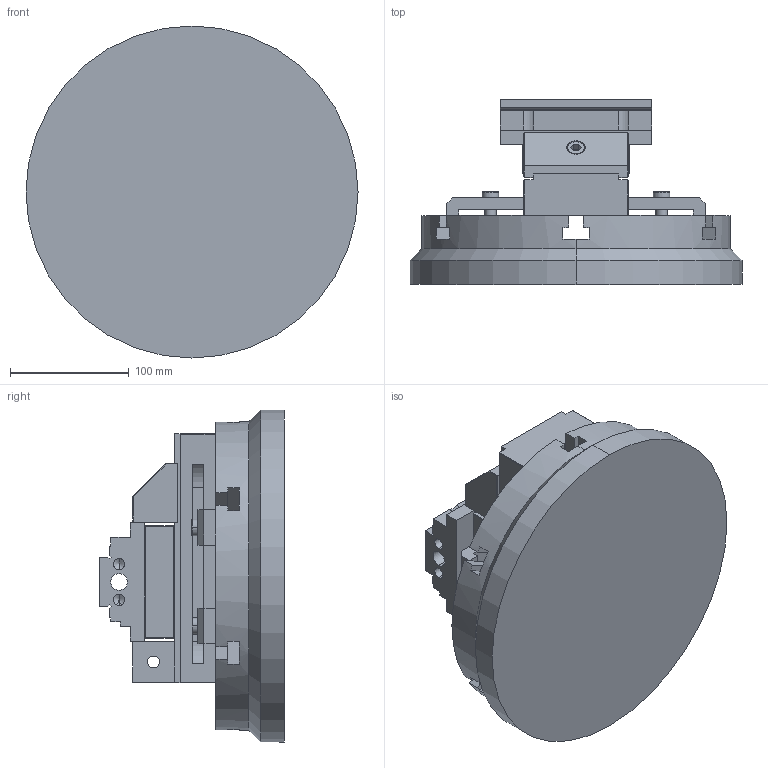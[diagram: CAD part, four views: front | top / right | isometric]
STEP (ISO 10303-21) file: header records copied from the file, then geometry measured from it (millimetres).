
FILE_DESCRIPTION (( 'STEP AP203' ), '1' );
FILE_NAME ('Plateau + pièce.STEP', '2009-12-04T11:58:39', ( 'Famille Couzi' ), ( '' ), 'SwSTEP 2.0', 'SolidWorks 2005143', '' );
FILE_SCHEMA (( 'CONFIG_CONTROL_DESIGN' ));
Length unit declared in the file: millimetre
Products named in the file (8): mors mobile; bride; Plateau + pièce; plateau; etau out 88; cale; piece ph20_Défaut
Assembly tree (10 placements, depth 3):
  Plateau + pièce
    cale
    piece ph20_Défaut
    bride  x4
    plateau
    etau out 88
      etau out 88
      mors mobile
Bounding box: 280 x 156 x 280 mm (x, y, z)
Volume: 4388483.7 mm3; surface area: 420034.5 mm2
Topology: 9 solids, 9 shells, 421 faces, 1037 edges, 646 vertices
Faces by surface type: plane 268, cylinder 111, cone 34, torus 8
Entity records: 10398 total; most frequent: DIRECTION 1692, CARTESIAN_POINT 1627, ORIENTED_EDGE 1572, EDGE_CURVE 786, AXIS2_PLACEMENT_3D 567, VECTOR 558, LINE 558, VERTEX_POINT 502
